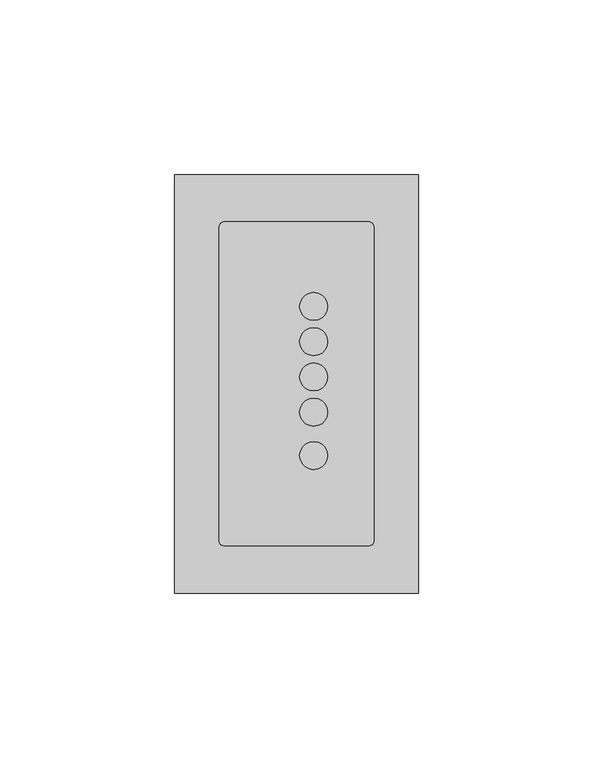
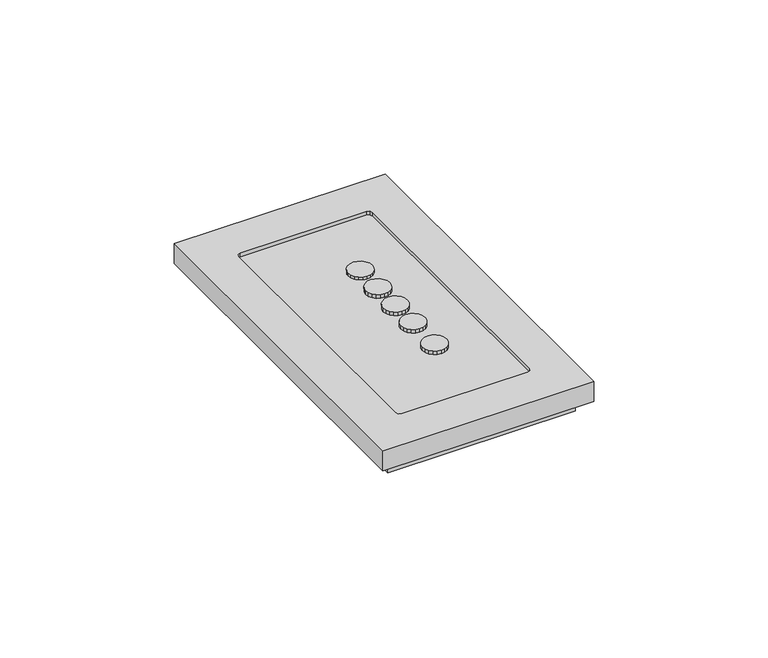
"""IFC4 building model written with IfcOpenShell, lengths in millimetres: switching device geometry, Light-Swich_02 : Light-Swich."""

import ifcopenshell
import ifcopenshell.guid

model = None  # the IFC model being written
_history = None  # IfcOwnerHistory: only IFC2X3 demands one
_inside = {}  # id of a spatial element -> (the spatial element, [elements in it])
_under = {}  # id of a project, library or spatial element -> (it, [spatial elements below it])
_declared = {}  # id of a project -> (the project, [libraries it declares])
_typed = {}  # id of a type object -> (the type object, [elements of that type])
_made_of = {}  # id of a material, layer set ... -> (it, [elements and type objects made of it])


def new_model(schema):
    """Start an empty IFC model of exactly this schema.

    Asked for "IFC4X3", IfcOpenShell would pick the latest addendum, in which some entities
    have other attributes; the version numbers below select the first issue.
    IFC2X3 requires an IfcOwnerHistory on every rooted entity: one is made here for all.
    """
    global model, _history
    if schema == "IFC4X3":
        model = ifcopenshell.file(schema_version=(4, 3, 0, 0))
    else:
        model = ifcopenshell.file(schema=schema)
    _inside.clear()
    _under.clear()
    _declared.clear()
    _typed.clear()
    _made_of.clear()
    _history = None
    if model.schema == "IFC2X3":
        org = make("IfcOrganization", Name="unknown")
        user = make(
            "IfcPersonAndOrganization",
            ThePerson=make("IfcPerson", FamilyName="unknown"),
            TheOrganization=org,
        )
        app = make(
            "IfcApplication",
            ApplicationDeveloper=org,
            Version="unknown",
            ApplicationFullName="unknown",
            ApplicationIdentifier="unknown",
        )
        _history = make(
            "IfcOwnerHistory",
            OwningUser=user,
            OwningApplication=app,
            ChangeAction="ADDED",
            CreationDate=0,
        )
    return model


def make(cls, **values):
    """One entity of the class cls with the attributes given. An attribute that is None is left unset."""
    return model.create_entity(
        cls, **{name: value for name, value in values.items() if value is not None}
    )


def rooted(cls, **values):
    """An entity with a GlobalId (a new one), such as an element, a storey or a relation."""
    return make(cls, GlobalId=ifcopenshell.guid.new(), OwnerHistory=_history, **values)


def si_unit(unit_type, name, prefix=None):
    """IfcSIUnit, for example si_unit("LENGTHUNIT", "METRE", prefix="MILLI")."""
    return make("IfcSIUnit", UnitType=unit_type, Prefix=prefix, Name=name)


def assignment(units):
    """IfcUnitAssignment: the units of a project."""
    return None if units is None else make("IfcUnitAssignment", Units=units)


def point(xyz):
    """IfcCartesianPoint."""
    return None if xyz is None else make("IfcCartesianPoint", Coordinates=xyz)


def direction(xyz):
    """IfcDirection."""
    return None if xyz is None else make("IfcDirection", DirectionRatios=xyz)


def frame(location, z_axis=None, x_axis=None):
    """IfcAxis2Placement3D, a coordinate frame: its origin and axes. An axis left out is left unset."""
    return make(
        "IfcAxis2Placement3D",
        Location=point(location),
        Axis=direction(z_axis),
        RefDirection=direction(x_axis),
    )


def origin():
    """The frame at (0, 0, 0) with its axes left unset."""
    return frame((0.0, 0.0, 0.0))


def origin_with_axes():
    """The frame at (0, 0, 0) with the z axis (0, 0, 1) and the x axis (1, 0, 0) written out."""
    return frame((0.0, 0.0, 0.0), z_axis=(0.0, 0.0, 1.0), x_axis=(1.0, 0.0, 0.0))


def place(relative_to, where):
    """IfcLocalPlacement: puts the frame where relative to a parent placement (None: the world)."""
    return make(
        "IfcLocalPlacement", PlacementRelTo=relative_to, RelativePlacement=where
    )


def context(
    kind, dimensions, precision=None, world=None, true_north=None, identifier=None
):
    """IfcGeometricRepresentationContext, for example the 3D "Model" context."""
    return make(
        "IfcGeometricRepresentationContext",
        ContextIdentifier=identifier,
        ContextType=kind,
        CoordinateSpaceDimension=dimensions,
        Precision=precision,
        WorldCoordinateSystem=world,
        TrueNorth=true_north,
    )


def project(units=None, contexts=None):
    """IfcProject with its units and contexts."""
    return rooted(
        "IfcProject",
        Name="project",
        RepresentationContexts=contexts,
        UnitsInContext=assignment(units),
    )


def spatial(cls, under=None, at=None, **own):
    """A site, building, storey or space (cls), placed at a placement, below another one or the project."""
    s = rooted(cls, ObjectPlacement=at, **own)
    if under is not None:
        _under.setdefault(under.id(), (under, []))[1].append(s)
    return s


def polyline(points):
    """IfcPolyline through the points."""
    return make("IfcPolyline", Points=[point(p) for p in points])


def outline(outer, holes=None, kind="AREA"):
    """IfcArbitraryClosedProfileDef: a profile drawn as a closed curve; with holes, ...WithVoids."""
    if holes is None:
        return make("IfcArbitraryClosedProfileDef", ProfileType=kind, OuterCurve=outer)
    return make(
        "IfcArbitraryProfileDefWithVoids",
        ProfileType=kind,
        OuterCurve=outer,
        InnerCurves=holes,
    )


def extrude(swept, where, along, depth):
    """IfcExtrudedAreaSolid: the profile swept, set in the frame where, extruded along a direction by depth."""
    return make(
        "IfcExtrudedAreaSolid",
        SweptArea=swept,
        Position=where,
        ExtrudedDirection=direction(along),
        Depth=depth,
    )


def faces_of(points, faces, orient=None, outer=None):
    """IfcFace entities. A face is a list of loops; a loop is a list of indices into points, from 0.

    orient and outer hold one flag for each loop. By default every Orientation is true, the
    first loop of a face is its IfcFaceOuterBound and the others are IfcFaceBound.
    """
    made = []
    for i, loops in enumerate(faces):
        bounds = []
        for j, loop in enumerate(loops):
            is_outer = j == 0 if outer is None else outer[i][j]
            bounds.append(
                make(
                    "IfcFaceOuterBound" if is_outer else "IfcFaceBound",
                    Bound=make("IfcPolyLoop", Polygon=[points[k] for k in loop]),
                    Orientation=True if orient is None else orient[i][j],
                )
            )
        made.append(make("IfcFace", Bounds=bounds))
    return made


def faceted_brep(points, faces, orient=None, outer=None, voids=None):
    """IfcFacetedBrep: a solid bounded by flat faces; with voids (closed shells), ...WithVoids."""
    shared = [point(p) for p in points]
    hull = make("IfcClosedShell", CfsFaces=faces_of(shared, faces, orient, outer))
    if voids is None:
        return make("IfcFacetedBrep", Outer=hull)
    return make(
        "IfcFacetedBrepWithVoids",
        Outer=hull,
        Voids=[
            make(cls, CfsFaces=faces_of(shared, fs, o, b)) for cls, fs, o, b in voids
        ],
    )


def shape(context_of_items, identifier, shape_type, items):
    """IfcShapeRepresentation: the items that make up one representation, for example the "Body"."""
    return make(
        "IfcShapeRepresentation",
        ContextOfItems=context_of_items,
        RepresentationIdentifier=identifier,
        RepresentationType=shape_type,
        Items=items,
    )


def source(mapping_origin, context_of_items, identifier, shape_type, items):
    """IfcRepresentationMap: a shape defined once, which mapped items show again and again."""
    return make(
        "IfcRepresentationMap",
        MappingOrigin=mapping_origin,
        MappedRepresentation=shape(context_of_items, identifier, shape_type, items),
    )


def transform(
    local_origin,
    x_axis=None,
    y_axis=None,
    z_axis=None,
    scale=None,
    scale2=None,
    scale3=None,
    uniform=True,
):
    """IfcCartesianTransformationOperator3D, or its non-uniform kind. x_axis, y_axis, z_axis: its Axis1, 2, 3."""
    if uniform:
        return make(
            "IfcCartesianTransformationOperator3D",
            Axis1=direction(x_axis),
            Axis2=direction(y_axis),
            LocalOrigin=point(local_origin),
            Scale=scale,
            Axis3=direction(z_axis),
        )
    return make(
        "IfcCartesianTransformationOperator3DnonUniform",
        Axis1=direction(x_axis),
        Axis2=direction(y_axis),
        LocalOrigin=point(local_origin),
        Scale=scale,
        Axis3=direction(z_axis),
        Scale2=scale2,
        Scale3=scale3,
    )


def mapped(mapping_source, mapping_target):
    """IfcMappedItem: shows the shape of a source again, moved by a transform."""
    return make(
        "IfcMappedItem", MappingSource=mapping_source, MappingTarget=mapping_target
    )


def made_of(thing, what):
    """Note that an element or type object is made of a material, layer set ...; save() writes the relation."""
    if what is not None:
        _made_of.setdefault(what.id(), (what, []))[1].append(thing)
    return thing


def element(
    cls,
    number,
    at=None,
    inside=None,
    cuts=None,
    type_object=None,
    material=None,
    context=None,
    identifier="Body",
    shape_type=None,
    held_by="IfcProductDefinitionShape",
    body=None,
    shapes=None,
    **own,
):
    """One element of the class cls, such as IfcWall. Its Tag is "e" and its number.

    at: its placement. inside: the storey or other place that contains it. cuts: it is an
    opening in that element (IfcRelVoidsElement). A single representation is given by context,
    identifier, shape_type and body (its items); several are given by shapes. held_by: the class
    of the entity that holds the representations. save() writes the other relations.
    """
    e = rooted(cls, Tag="e%d" % number, ObjectPlacement=at, **own)
    if body is not None:
        shapes = [shape(context, identifier, shape_type, body)]
    if shapes is not None:
        e.Representation = make(held_by, Representations=shapes)
    if inside is not None:
        _inside.setdefault(inside.id(), (inside, []))[1].append(e)
    if cuts is not None:
        rooted(
            "IfcRelVoidsElement", RelatingBuildingElement=cuts, RelatedOpeningElement=e
        )
    if type_object is not None:
        _typed.setdefault(type_object.id(), (type_object, []))[1].append(e)
    return made_of(e, material)


def aggregate(whole, parts):
    """IfcRelAggregates: a whole, such as a stair, and the parts it consists of."""
    return rooted("IfcRelAggregates", RelatingObject=whole, RelatedObjects=parts)


def save(model, path):
    """Write the relations noted so far, then the file.

    IfcRelAggregates (storeys below a building ...), IfcRelContainedInSpatialStructure (elements
    in a storey), IfcRelDefinesByType, IfcRelAssociatesMaterial and IfcRelDeclares: one each for
    every whole, place, type object, material and project.
    """
    for whole, parts in _under.values():
        aggregate(whole, parts)
    for where, things in _inside.values():
        rooted(
            "IfcRelContainedInSpatialStructure",
            RelatedElements=things,
            RelatingStructure=where,
        )
    for kind, things in _typed.values():
        rooted("IfcRelDefinesByType", RelatedObjects=things, RelatingType=kind)
    for what, things in _made_of.values():
        rooted("IfcRelAssociatesMaterial", RelatedObjects=things, RelatingMaterial=what)
    for by, libraries in _declared.values():
        rooted("IfcRelDeclares", RelatingContext=by, RelatedDefinitions=libraries)
    model.write(path)


def switching_device_e6d778ff(model_context):
    return source(origin(), model_context, "Body", "SolidModel", [
        extrude(outline(polyline([(4.9394989, -16.4978409), (6.1788177, -16.6942215), (7.2968292, -17.2638321), (8.1840515, -18.1511307), (8.7537384, -19.2691422), (8.9500427, -20.508461), (8.7537384, -21.7477798), (8.1840515, -22.8657913), (7.2968292, -23.7530899), (6.1788177, -24.3227005), (4.9394989, -24.5190811), (3.7001801, -24.3227005), (2.5821686, -23.7530899), (1.6949463, -22.8657913), (1.1252594, -21.7477798), (0.9289551, -20.508461), (1.1252594, -19.2691422), (1.6949463, -18.1511307), (2.5821686, -17.2638321), (3.7001801, -16.6942215), (4.9394989, -16.4978409)])), frame((0.0, 0.0, 10.1786137), z_axis=(0.0, 0.0, 1.0), x_axis=(1.0, 0.0, 0.0)), (0.0, 0.0, 1.0), 1.2999702),
        extrude(outline(polyline([(4.9394989, -4.06147), (6.1788177, -4.2578506), (7.2968292, -4.8274612), (8.1840515, -5.7147598), (8.7537384, -6.8327713), (8.9500427, -8.0720901), (8.7537384, -9.311409), (8.1840515, -10.4294205), (7.2968292, -11.3167191), (6.1788177, -11.8863297), (4.9394989, -12.0827103), (3.7001801, -11.8863297), (2.5821686, -11.3167191), (1.6949463, -10.4294205), (1.1252594, -9.311409), (0.9289551, -8.0720901), (1.1252594, -6.8327713), (1.6949463, -5.7147598), (2.5821686, -4.8274612), (3.7001801, -4.2578506), (4.9394989, -4.06147)])), frame((0.0, 0.0, 10.1786137), z_axis=(0.0, 0.0, 1.0), x_axis=(1.0, 0.0, 0.0)), (0.0, 0.0, 1.0), 1.2999702),
        extrude(outline(polyline([(4.9394989, 6.0355759), (6.1788177, 5.8391953), (7.2968292, 5.2695847), (8.1840515, 4.3822861), (8.7537384, 3.2642746), (8.9500427, 2.0249557), (8.7537384, 0.7856369), (8.1840515, -0.3323746), (7.2968292, -1.2196732), (6.1788177, -1.7892838), (4.9394989, -1.9856644), (3.7001801, -1.7892838), (2.5821686, -1.2196732), (1.6949463, -0.3323746), (1.1252594, 0.7856369), (0.9289551, 2.0249557), (1.1252594, 3.2642746), (1.6949463, 4.3822861), (2.5821686, 5.2695847), (3.7001801, 5.8391953), (4.9394989, 6.0355759)])), frame((0.0, 0.0, 10.1786137), z_axis=(0.0, 0.0, 1.0), x_axis=(1.0, 0.0, 0.0)), (0.0, 0.0, 1.0), 1.2999702),
        extrude(outline(polyline([(4.9394989, 16.1326218), (6.1788177, 15.9362411), (7.2968292, 15.3666306), (8.1840515, 14.479332), (8.7537384, 13.3613205), (8.9500427, 12.1220016), (8.7537384, 10.8826828), (8.1840515, 9.7646713), (7.2968292, 8.8773727), (6.1788177, 8.3077621), (4.9394989, 8.1113815), (3.7001801, 8.3077621), (2.5821686, 8.8773727), (1.6949463, 9.7646713), (1.1252594, 10.8826828), (0.9289551, 12.1220016), (1.1252594, 13.3613205), (1.6949463, 14.479332), (2.5821686, 15.3666306), (3.7001801, 15.9362411), (4.9394989, 16.1326218)])), frame((0.0, 0.0, 10.1786137), z_axis=(0.0, 0.0, 1.0), x_axis=(1.0, 0.0, 0.0)), (0.0, 0.0, 1.0), 1.2999702),
        faceted_brep([(35.0, 59.9999619, 11.4785839), (-35.0, 59.9999619, 11.4785839), (-35.0, -60.0000381, 11.4785839), (35.0, -60.0000381, 11.4785839), (-20.9067535, 46.4069748, 11.4785839), (20.9082446, 46.4063644, 11.4785839), (21.783905, 46.0479355, 11.4785839), (22.1490479, 45.1659775, 11.4785839), (22.149353, -45.1644011, 11.4785839), (21.783905, -46.0470963, 11.4785839), (20.9082446, -46.4055252, 11.4785839), (-20.9067535, -46.4061356, 11.4785839), (-21.783905, -46.0470963, 11.4785839), (-22.149353, -45.1644011, 11.4785839), (-22.1490479, 45.1659775, 11.4785839), (-21.783905, 46.0479355, 11.4785839), (35.0, 59.9999619, 4.4780193), (35.0, -60.0000381, 4.4780193), (-35.0, -60.0000381, 4.4780193), (-35.0, 59.9999619, 4.4780193), (-20.9067535, 46.4069748, 10.1786137), (-21.783905, 46.0479355, 10.1786137), (-22.1490479, 45.1659775, 10.1786137), (-22.149353, -45.1644011, 10.1786137), (-21.783905, -46.0470963, 10.1786137), (-20.9067535, -46.4061356, 10.1786137), (20.9082446, -46.4055252, 10.1786137), (21.783905, -46.0470963, 10.1786137), (22.149353, -45.1644011, 10.1786137), (22.1490479, 45.1659775, 10.1786137), (21.783905, 46.0479355, 10.1786137), (20.9082446, 46.4063644, 10.1786137)], [[[0, 1, 2, 3], [4, 5, 6, 7, 8, 9, 10, 11, 12, 13, 14, 15]], [[16, 17, 18, 19]], [[0, 3, 17, 16]], [[3, 2, 18, 17]], [[2, 1, 19, 18]], [[1, 0, 16, 19]], [[20, 21, 22, 23, 24, 25, 26, 27, 28, 29, 30, 31]], [[20, 31, 5, 4]], [[31, 30, 6, 5]], [[30, 29, 7, 6]], [[29, 28, 8, 7]], [[28, 27, 9, 8]], [[27, 26, 10, 9]], [[26, 25, 11, 10]], [[25, 24, 12, 11]], [[24, 23, 13, 12]], [[23, 22, 14, 13]], [[22, 21, 15, 14]], [[21, 20, 4, 15]]]),
        extrude(outline(polyline([(4.9394989, 26.2296677), (6.1788177, 26.033287), (7.2968292, 25.4636765), (8.1840515, 24.5763779), (8.7537384, 23.4583664), (8.9500427, 22.2190475), (8.7537384, 20.9797287), (8.1840515, 19.8617172), (7.2968292, 18.9744186), (6.1788177, 18.404808), (4.9394989, 18.2084274), (3.7001801, 18.404808), (2.5821686, 18.9744186), (1.6949463, 19.8617172), (1.1252594, 20.9797287), (0.9289551, 22.2190475), (1.1252594, 23.4583664), (1.6949463, 24.5763779), (2.5821686, 25.4636765), (3.7001801, 26.033287), (4.9394989, 26.2296677)])), frame((0.0, 0.0, 10.1786137), z_axis=(0.0, 0.0, 1.0), x_axis=(1.0, 0.0, 0.0)), (0.0, 0.0, 1.0), 1.2999702),
        extrude(outline(polyline([(31.0549927, 56.0548019), (31.0549927, -56.0549545), (-31.0549927, -56.0549545), (-31.0549927, 56.0548019), (31.0549927, 56.0548019)])), origin_with_axes(), (0.0, 0.0, 1.0), 4.4780193),
    ])


if __name__ == "__main__":
    model = new_model("IFC4")
    model_context = context("Model", 3, world=origin())
    ifc_project = project(units=[si_unit("LENGTHUNIT", "METRE", prefix="MILLI")], contexts=[model_context])
    site = spatial("IfcSite", under=ifc_project)
    building = spatial("IfcBuilding", under=site)
    placement = place(None, origin())
    switching_device_shape = switching_device_e6d778ff(model_context)
    element("IfcSwitchingDevice", 1, ObjectType="Light-Swich_02 : Light-Swich", at=placement, inside=building, context=model_context, shape_type="MappedRepresentation", body=[
        mapped(switching_device_shape, transform((0.0, 0.0, 0.0), x_axis=(1.0, 0.0, 0.0), y_axis=(0.0, 1.0, 0.0), z_axis=(0.0, 0.0, 1.0))),
    ])
    save(model, "model.ifc")
